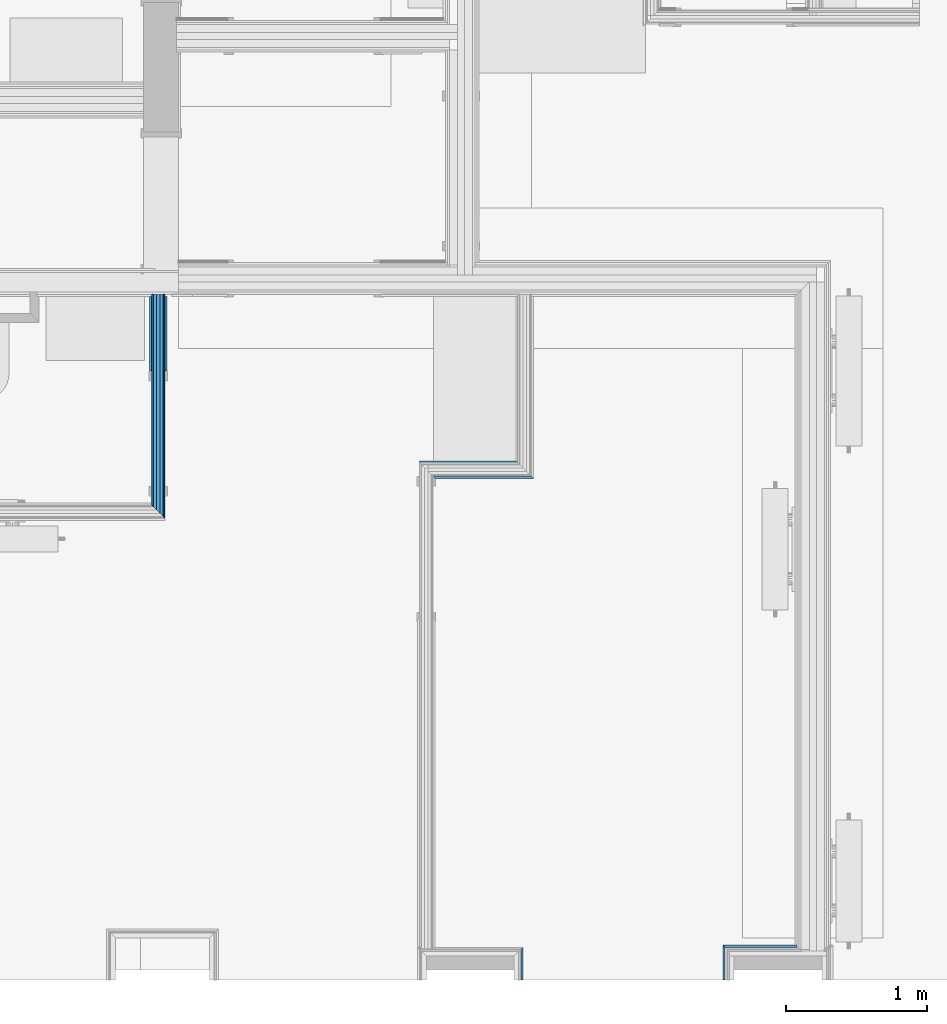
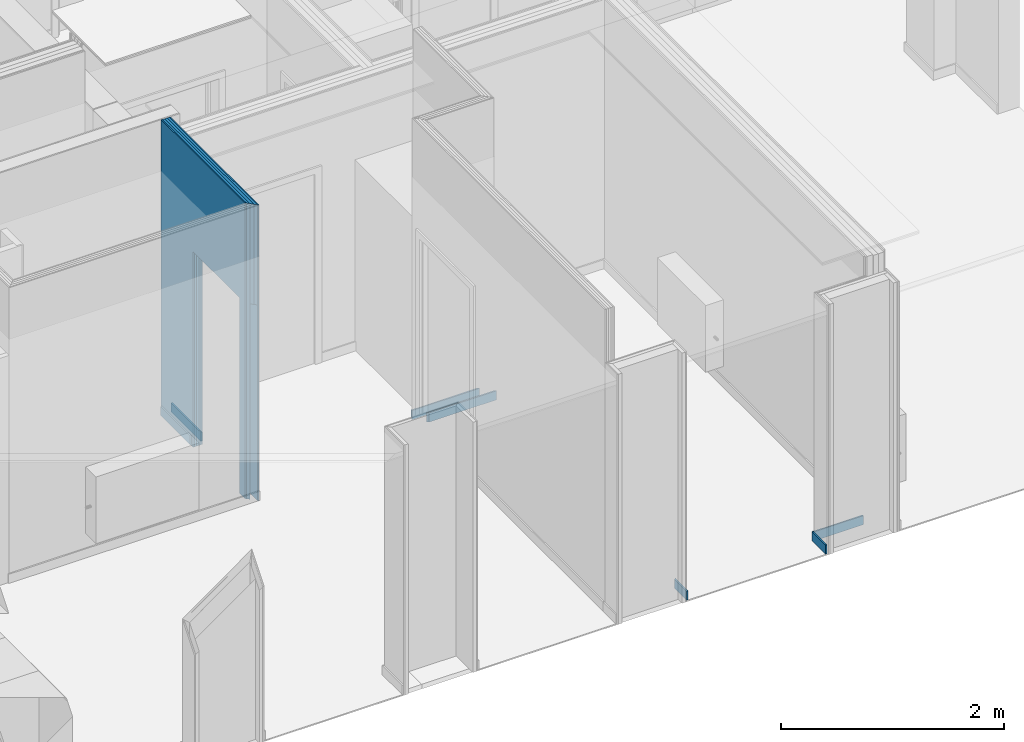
# One storey, part 38 of 65: 12 building element parts, 1 opening, 5 elements without a shape of their own.
"""IFC2X3 building model written with IfcOpenShell, lengths in metres."""

from ifc_helpers import new_model, entity, si_unit, converted_unit, derived_unit, money_unit, direction, frame, frame_2d, origin_with_axes, place, context, subcontext, project, spatial, polyline, rectangle, outline, extrude, material, type_object, element, aggregate, save


model = new_model("IFC2X3")

# Units and contexts
model_context = context("Model", 3, precision=1e-05, world=origin_with_axes(), true_north=direction((0.0, 1.0)))
body_context = subcontext(model_context, "Body", "Model", "MODEL_VIEW", scale=1.0)
ifc_project = project(units=[si_unit("LENGTHUNIT", "METRE"), si_unit("AREAUNIT", "SQUARE_METRE"), si_unit("VOLUMEUNIT", "CUBIC_METRE"), si_unit("ABSORBEDDOSEUNIT", "GRAY"), si_unit("AMOUNTOFSUBSTANCEUNIT", "MOLE"), si_unit("DOSEEQUIVALENTUNIT", "SIEVERT"), si_unit("ELECTRICCAPACITANCEUNIT", "FARAD"), si_unit("ELECTRICCHARGEUNIT", "COULOMB"), si_unit("ELECTRICCONDUCTANCEUNIT", "SIEMENS"), si_unit("ELECTRICCURRENTUNIT", "AMPERE"), si_unit("ELECTRICRESISTANCEUNIT", "OHM"), si_unit("ELECTRICVOLTAGEUNIT", "VOLT"), si_unit("ENERGYUNIT", "JOULE"), si_unit("FORCEUNIT", "NEWTON"), si_unit("FREQUENCYUNIT", "HERTZ"), si_unit("ILLUMINANCEUNIT", "LUX"), si_unit("INDUCTANCEUNIT", "HENRY"), si_unit("LUMINOUSFLUXUNIT", "LUMEN"), si_unit("LUMINOUSINTENSITYUNIT", "CANDELA"), si_unit("MAGNETICFLUXDENSITYUNIT", "TESLA"), si_unit("MAGNETICFLUXUNIT", "WEBER"), si_unit("MASSUNIT", "GRAM"), converted_unit("PLANEANGLEUNIT", "degree", entity("IfcReal", 0.0174532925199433), si_unit("PLANEANGLEUNIT", "RADIAN"), dimensions=[0, 0, 0, 0, 0, 0, 0]), si_unit("POWERUNIT", "WATT"), si_unit("PRESSUREUNIT", "PASCAL"), si_unit("RADIOACTIVITYUNIT", "BECQUEREL"), si_unit("SOLIDANGLEUNIT", "STERADIAN"), si_unit("THERMODYNAMICTEMPERATUREUNIT", "KELVIN"), si_unit("TIMEUNIT", "SECOND"), derived_unit("ACCELERATIONUNIT", [(si_unit("LENGTHUNIT", "METRE"), 1), (si_unit("TIMEUNIT", "SECOND"), -2)]), derived_unit("ANGULARVELOCITYUNIT", [(converted_unit("PLANEANGLEUNIT", "degree", entity("IfcReal", 0.0174532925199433), si_unit("PLANEANGLEUNIT", "RADIAN"), dimensions=[0, 0, 0, 0, 0, 0, 0]), 1), (si_unit("TIMEUNIT", "SECOND"), -1)]), derived_unit("CURVATUREUNIT", [(converted_unit("PLANEANGLEUNIT", "degree", entity("IfcReal", 0.0174532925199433), si_unit("PLANEANGLEUNIT", "RADIAN"), dimensions=[0, 0, 0, 0, 0, 0, 0]), 1), (si_unit("LENGTHUNIT", "METRE"), -1)]), derived_unit("DYNAMICVISCOSITYUNIT", [(si_unit("PRESSUREUNIT", "PASCAL"), 1), (si_unit("TIMEUNIT", "SECOND"), 1)]), derived_unit("HEATFLUXDENSITYUNIT", [(si_unit("POWERUNIT", "WATT"), 1), (si_unit("LENGTHUNIT", "METRE"), -2)]), derived_unit("HEATINGVALUEUNIT", [(si_unit("ENERGYUNIT", "JOULE"), 1), (si_unit("MASSUNIT", "GRAM"), -1)]), derived_unit("INTEGERCOUNTRATEUNIT", [(si_unit("TIMEUNIT", "SECOND"), -1)]), derived_unit("IONCONCENTRATIONUNIT", [(si_unit("MASSUNIT", "GRAM"), 1), (si_unit("VOLUMEUNIT", "CUBIC_METRE"), -1)]), derived_unit("ISOTHERMALMOISTURECAPACITYUNIT", [(si_unit("VOLUMEUNIT", "CUBIC_METRE"), 1), (si_unit("MASSUNIT", "GRAM"), -1)]), derived_unit("KINEMATICVISCOSITYUNIT", [(si_unit("AREAUNIT", "SQUARE_METRE"), 1), (si_unit("TIMEUNIT", "SECOND"), -1)]), derived_unit("LINEARFORCEUNIT", [(si_unit("FORCEUNIT", "NEWTON"), 1), (si_unit("LENGTHUNIT", "METRE"), -1)]), derived_unit("LINEARMOMENTUNIT", [(si_unit("FORCEUNIT", "NEWTON"), 1), (si_unit("LENGTHUNIT", "METRE"), -1)]), derived_unit("LINEARSTIFFNESSUNIT", [(si_unit("FORCEUNIT", "NEWTON"), 1), (si_unit("LENGTHUNIT", "METRE"), -1)]), derived_unit("LINEARVELOCITYUNIT", [(si_unit("LENGTHUNIT", "METRE"), 1), (si_unit("TIMEUNIT", "SECOND"), -1)]), derived_unit("LUMINOUSINTENSITYDISTRIBUTIONUNIT", [(si_unit("LUMINOUSINTENSITYUNIT", "CANDELA"), 1), (si_unit("LUMINOUSFLUXUNIT", "LUMEN"), -1)]), derived_unit("MASSDENSITYUNIT", [(si_unit("MASSUNIT", "GRAM"), 1), (si_unit("VOLUMEUNIT", "CUBIC_METRE"), -1)]), derived_unit("MASSFLOWRATEUNIT", [(si_unit("MASSUNIT", "GRAM"), 1), (si_unit("TIMEUNIT", "SECOND"), -1)]), derived_unit("MASSPERLENGTHUNIT", [(si_unit("MASSUNIT", "GRAM"), 1), (si_unit("LENGTHUNIT", "METRE"), -1)]), derived_unit("MODULUSOFELASTICITYUNIT", [(si_unit("FORCEUNIT", "NEWTON"), 1), (si_unit("AREAUNIT", "SQUARE_METRE"), -1)]), derived_unit("MODULUSOFLINEARSUBGRADEREACTIONUNIT", [(si_unit("FORCEUNIT", "NEWTON"), 1), (si_unit("LENGTHUNIT", "METRE"), -2)]), derived_unit("MODULUSOFROTATIONALSUBGRADEREACTIONUNIT", [(si_unit("FORCEUNIT", "NEWTON"), 1), (si_unit("LENGTHUNIT", "METRE"), 1)]), derived_unit("MODULUSOFSUBGRADEREACTIONUNIT", [(si_unit("FORCEUNIT", "NEWTON"), 1), (si_unit("VOLUMEUNIT", "CUBIC_METRE"), -1)]), derived_unit("MOISTUREDIFFUSIVITYUNIT", [(si_unit("VOLUMEUNIT", "CUBIC_METRE"), 1), (si_unit("TIMEUNIT", "SECOND"), -1)]), derived_unit("MOLECULARWEIGHTUNIT", [(si_unit("MASSUNIT", "GRAM"), 1), (si_unit("AMOUNTOFSUBSTANCEUNIT", "MOLE"), -1)]), derived_unit("PLANARFORCEUNIT", [(si_unit("FORCEUNIT", "NEWTON"), 1), (si_unit("LENGTHUNIT", "METRE"), -2)]), derived_unit("ROTATIONALFREQUENCYUNIT", [(si_unit("TIMEUNIT", "SECOND"), -1)]), derived_unit("ROTATIONALMASSUNIT", [(si_unit("MASSUNIT", "GRAM"), 1), (si_unit("LENGTHUNIT", "METRE"), 2)]), derived_unit("ROTATIONALSTIFFNESSUNIT", [(si_unit("FORCEUNIT", "NEWTON"), 1), (si_unit("LENGTHUNIT", "METRE"), 1), (converted_unit("PLANEANGLEUNIT", "degree", entity("IfcReal", 0.0174532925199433), si_unit("PLANEANGLEUNIT", "RADIAN"), dimensions=[0, 0, 0, 0, 0, 0, 0]), -1)]), derived_unit("SECTIONAREAINTEGRALUNIT", [(si_unit("LENGTHUNIT", "METRE"), 5)]), derived_unit("SECTIONMODULUSUNIT", [(si_unit("LENGTHUNIT", "METRE"), 3)]), derived_unit("SHEARMODULUSUNIT", [(si_unit("FORCEUNIT", "NEWTON"), 1), (si_unit("AREAUNIT", "SQUARE_METRE"), -1)]), derived_unit("SOUNDPOWERUNIT", [(si_unit("ENERGYUNIT", "JOULE"), 1), (si_unit("TIMEUNIT", "SECOND"), -1)]), derived_unit("SPECIFICHEATCAPACITYUNIT", [(si_unit("FORCEUNIT", "NEWTON"), 1), (si_unit("MASSUNIT", "GRAM"), -1), (si_unit("THERMODYNAMICTEMPERATUREUNIT", "KELVIN"), -1)]), derived_unit("TEMPERATUREGRADIENTUNIT", [(si_unit("THERMODYNAMICTEMPERATUREUNIT", "KELVIN"), 1), (si_unit("LENGTHUNIT", "METRE"), -1)]), derived_unit("THERMALADMITTANCEUNIT", [(si_unit("POWERUNIT", "WATT"), 1), (si_unit("AREAUNIT", "SQUARE_METRE"), -1), (si_unit("THERMODYNAMICTEMPERATUREUNIT", "KELVIN"), -1)]), derived_unit("THERMALCONDUCTANCEUNIT", [(si_unit("POWERUNIT", "WATT"), 1), (si_unit("LENGTHUNIT", "METRE"), -1), (si_unit("THERMODYNAMICTEMPERATUREUNIT", "KELVIN"), -1)]), derived_unit("THERMALEXPANSIONCOEFFICIENTUNIT", [(si_unit("THERMODYNAMICTEMPERATUREUNIT", "KELVIN"), -1)]), derived_unit("THERMALRESISTANCEUNIT", [(si_unit("AREAUNIT", "SQUARE_METRE"), 1), (si_unit("POWERUNIT", "WATT"), -1)]), derived_unit("THERMALTRANSMITTANCEUNIT", [(si_unit("POWERUNIT", "WATT"), 1), (si_unit("AREAUNIT", "SQUARE_METRE"), -1), (si_unit("THERMODYNAMICTEMPERATUREUNIT", "KELVIN"), -1)]), derived_unit("TORQUEUNIT", [(si_unit("FORCEUNIT", "NEWTON"), 1), (si_unit("LENGTHUNIT", "METRE"), 1)]), derived_unit("VAPORPERMEABILITYUNIT", [(si_unit("MASSUNIT", "GRAM"), 1), (si_unit("TIMEUNIT", "SECOND"), -1)]), derived_unit("VOLUMETRICFLOWRATEUNIT", [(si_unit("VOLUMEUNIT", "CUBIC_METRE"), 1), (si_unit("TIMEUNIT", "SECOND"), -1)]), derived_unit("WARPINGCONSTANTUNIT", [(si_unit("LENGTHUNIT", "METRE"), 6)]), derived_unit("WARPINGMOMENTUNIT", [(si_unit("FORCEUNIT", "NEWTON"), 1), (si_unit("LENGTHUNIT", "METRE"), 2)]), money_unit("GBP")], contexts=[model_context])

# Site, building, storey
site_placement = place(None, origin_with_axes())
site = spatial("IfcSite", under=ifc_project, at=site_placement, Name="Site", CompositionType="ELEMENT")
building_placement = place(site_placement, origin_with_axes())
building = spatial("IfcBuilding", under=site, at=building_placement, Name="Building01", CompositionType="ELEMENT")
storey_placement = place(building_placement, frame((0.0, 0.0, 8.64), z_axis=(0.0, 0.0, 1.0), x_axis=(1.0, 0.0, 0.0)))
storey = spatial("IfcBuildingStorey", under=building, at=storey_placement, Name="2F", CompositionType="ELEMENT", Elevation=8.64)

# Wall, building element part
wall_type_1 = type_object("IfcWallType", Name="SHE_A-Walls_Type06d_ExternalWallInsulation_48mm", PredefinedType="NOTDEFINED")
wall_1_placement = place(storey_placement, frame((20.387, 0.27, 0.0), z_axis=(0.0, 0.0, 1.0), x_axis=(0.0, -1.0, 0.0)))
wall_1 = element("IfcWall", 1, at=wall_1_placement, inside=storey, type_object=wall_type_1, Name="6D", ObjectType="SHE_A-Walls_Type06d_ExternalWallInsulation_48mm")
ifc_material_1 = material(Name="A_BSUK_Walls_Timber")
building_element_part_1_placement = place(wall_1_placement, origin_with_axes())
building_element_part_1 = element("IfcBuildingElementPart", 2, at=building_element_part_1_placement, material=ifc_material_1, Name="3", context=body_context, shape_type="SweptSolid", body=[
    extrude(outline(polyline([(-0.063, 0.063), (-0.048, 0.048), (0.17, 0.048), (0.17, 0.063), (-0.063, 0.063)])), frame((0.0, 0.0, 0.015), z_axis=(0.0, 0.0, 1.0), x_axis=(1.0, 0.0, 0.0)), (0.0, 0.0, 1.0), 0.1),
])
aggregate(wall_1, [building_element_part_1])

# Wall, building element parts
wall_type_2 = type_object("IfcWallType", Name="SHE_A-Walls_Type05a_Partition_95mm_tall", PredefinedType="NOTDEFINED")
wall_2_placement = place(storey_placement, frame((19.775, 3.72, 0.0), z_axis=(0.0, 0.0, 1.0), x_axis=(1.0, 0.0, 0.0)))
wall_2 = element("IfcWall", 3, at=wall_2_placement, inside=storey, type_object=wall_type_2, Name="5A", ObjectType="SHE_A-Walls_Type05a_Partition_95mm_tall")
placement_1 = place(wall_2_placement, origin_with_axes())
building_element_part_2 = element("IfcBuildingElementPart", 4, at=placement_1, material=ifc_material_1, Name="1", context=body_context, shape_type="SweptSolid", body=[
    extrude(outline(polyline([(0.735, -0.035), (0.035, -0.035), (0.05, -0.05), (0.75, -0.05), (0.735, -0.035)])), frame((0.0, 0.0, 0.015), z_axis=(0.0, 0.0, 1.0), x_axis=(1.0, 0.0, 0.0)), (0.0, 0.0, 1.0), 0.1),
])
building_element_part_3 = element("IfcBuildingElementPart", 5, at=placement_1, material=ifc_material_1, Name="7", context=body_context, shape_type="SweptSolid", body=[
    extrude(outline(polyline([(0.625, 0.075), (-0.06, 0.075), (-0.06, 0.06), (0.64, 0.06), (0.625, 0.075)])), frame((0.0, 0.0, 0.015), z_axis=(0.0, 0.0, 1.0), x_axis=(1.0, 0.0, 0.0)), (0.0, 0.0, 1.0), 0.1),
])
aggregate(wall_2, [building_element_part_2, building_element_part_3])

# Wall, opening, building element parts
wall_3_placement = place(storey_placement, frame((17.8675, 4.98, 0.0), z_axis=(0.0, 0.0, 1.0), x_axis=(0.0, -1.0, 0.0)))
wall_3 = element("IfcWall", 6, at=wall_3_placement, inside=storey, type_object=wall_type_2, Name="5A", ObjectType="SHE_A-Walls_Type05a_Partition_95mm_tall")
opening_placement = place(wall_3_placement, frame((0.574219, -0.06, -0.015), z_axis=(0.0, 0.0, 1.0), x_axis=(1.0, 0.0, 0.0)))
element("IfcOpeningElement", 7, at=opening_placement, cuts=wall_3, Name="Opening", ObjectType="Recess", context=body_context, shape_type="SweptSolid", body=[
    extrude(rectangle(XDim=0.834, YDim=2.157, at=frame_2d((-0.417, 1.0785), x_axis=(-1.0, 0.0))), frame((0.0, 0.0, 0.0), z_axis=(0.0, 1.0, 0.0), x_axis=(-1.0, 0.0, 0.0)), (0.0, 0.0, 1.0), 0.095),
    extrude(outline(polyline([(0.0, 2.157), (-1.034, 2.157), (-1.034, 0.015), (-0.834, 0.015), (-0.834, 0.0), (0.0, 0.0), (0.0, 2.157)])), frame((0.0, 0.035, 0.0), z_axis=(0.0, 1.0, 0.0), x_axis=(-1.0, 0.0, 0.0)), (0.0, 0.0, 1.0), 0.025),
    extrude(outline(polyline([(0.0, 2.157), (-1.034, 2.157), (-1.034, 0.015), (-0.834, 0.015), (-0.834, 0.0), (0.0, 0.0), (0.0, 2.157)])), frame((0.0, 0.06, 0.0), z_axis=(0.0, 1.0, 0.0), x_axis=(-1.0, 0.0, 0.0)), (0.0, 0.0, 1.0), 0.023),
])
placement_2 = place(wall_3_placement, origin_with_axes())
building_element_part_4 = element("IfcBuildingElementPart", 8, at=placement_2, material=ifc_material_1, Name="1", context=body_context, shape_type="SweptSolid", body=[
    extrude(rectangle(XDim=0.015, YDim=0.532219, at=frame_2d((0.28111, -0.0675), x_axis=(0.0, -1.0))), frame((0.0, 0.0, 0.015), z_axis=(0.0, 0.0, 1.0), x_axis=(1.0, 0.0, 0.0)), (0.0, 0.0, 1.0), 0.1),
])
ifc_material_2 = material(Name="A_BSUK_WallInternal_Finishes_Plasterboard")
building_element_part_5 = element("IfcBuildingElementPart", 9, at=placement_2, material=ifc_material_2, Name="2", context=body_context, shape_type="SweptSolid", body=[
    extrude(outline(polyline([(1.512, -0.048), (0.0, -0.048), (0.0, -0.06), (1.5, -0.06), (1.512, -0.048)])), origin_with_axes(), (0.0, 0.0, 1.0), 3.24),
])
ifc_material_3 = material(Name="Air Cavity")
building_element_part_6 = element("IfcBuildingElementPart", 10, at=placement_2, material=ifc_material_3, Name="3", context=body_context, shape_type="SweptSolid", body=[
    extrude(outline(polyline([(1.535, -0.025), (0.0, -0.025), (0.0, -0.048), (1.512, -0.048), (1.535, -0.025)])), origin_with_axes(), (0.0, 0.0, 1.0), 3.24),
])
ifc_material_4 = material(Name="A_BSUK_Insulation")
building_element_part_7 = element("IfcBuildingElementPart", 11, at=placement_2, material=ifc_material_4, Name="4", context=body_context, shape_type="SweptSolid", body=[
    extrude(outline(polyline([(1.56, 0.0), (0.0, 0.0), (0.0, -0.025), (1.535, -0.025), (1.56, 0.0)])), origin_with_axes(), (0.0, 0.0, 1.0), 3.24),
])
building_element_part_8 = element("IfcBuildingElementPart", 12, at=placement_2, material=ifc_material_3, Name="5", context=body_context, shape_type="SweptSolid", body=[
    extrude(outline(polyline([(1.583, 0.023), (0.0, 0.023), (0.0, 0.0), (1.56, 0.0), (1.583, 0.023)])), origin_with_axes(), (0.0, 0.0, 1.0), 3.24),
])
building_element_part_9 = element("IfcBuildingElementPart", 13, at=placement_2, material=ifc_material_2, Name="6", context=body_context, shape_type="SweptSolid", body=[
    extrude(outline(polyline([(1.595, 0.035), (0.0, 0.035), (0.0, 0.023), (1.583, 0.023), (1.595, 0.035)])), origin_with_axes(), (0.0, 0.0, 1.0), 3.24),
])
building_element_part_10 = element("IfcBuildingElementPart", 14, at=placement_2, material=ifc_material_1, Name="7", context=body_context, shape_type="SweptSolid", body=[
    extrude(rectangle(XDim=0.015, YDim=0.532219, at=frame_2d((0.28111, 0.0425), x_axis=(0.0, -1.0))), frame((0.0, 0.0, 0.015), z_axis=(0.0, 0.0, 1.0), x_axis=(1.0, 0.0, 0.0)), (0.0, 0.0, 1.0), 0.1),
])
aggregate(wall_3, [building_element_part_4, building_element_part_5, building_element_part_6, building_element_part_7, building_element_part_8, building_element_part_9, building_element_part_10])

# Wall, building element part
wall_type_3 = type_object("IfcWallType", Name="SHE_A-Walls_Type06f_ExternalWallInsulation_48+15mm", PredefinedType="NOTDEFINED")
wall_4_placement = place(storey_placement, frame((21.953, 0.27, 0.0), z_axis=(0.0, 0.0, 1.0), x_axis=(0.0, 1.0, 0.0)))
wall_4 = element("IfcWall", 15, at=wall_4_placement, inside=storey, type_object=wall_type_3, Name="6F", ObjectType="SHE_A-Walls_Type06f_ExternalWallInsulation_48+15mm")
building_element_part_11_placement = place(wall_4_placement, origin_with_axes())
building_element_part_11 = element("IfcBuildingElementPart", 16, at=building_element_part_11_placement, material=ifc_material_1, Name="4", context=body_context, shape_type="SweptSolid", body=[
    extrude(outline(polyline([(-0.17, 0.063), (0.063, 0.063), (0.078, 0.078), (-0.17, 0.078), (-0.17, 0.063)])), frame((0.0, 0.0, 0.015), z_axis=(0.0, 0.0, 1.0), x_axis=(1.0, 0.0, 0.0)), (0.0, 0.0, 1.0), 0.1),
])
aggregate(wall_4, [building_element_part_11])

wall_5_placement = place(storey_placement, frame((22.613124, 0.27, 0.0), z_axis=(0.0, 0.0, 1.0), x_axis=(1.0, 0.0, 0.0)))
wall_5 = element("IfcWall", 17, at=wall_5_placement, inside=storey, type_object=wall_type_3, Name="6F", ObjectType="SHE_A-Walls_Type06f_ExternalWallInsulation_48+15mm")
building_element_part_12_placement = place(wall_5_placement, origin_with_axes())
building_element_part_12 = element("IfcBuildingElementPart", 18, at=building_element_part_12_placement, material=ifc_material_1, Name="7", context=body_context, shape_type="SweptSolid", body=[
    extrude(outline(polyline([(-0.723124, 0.063), (-0.213124, 0.063), (-0.213124, 0.078), (-0.738124, 0.078), (-0.723124, 0.063)])), frame((0.0, 0.0, 0.015), z_axis=(0.0, 0.0, 1.0), x_axis=(1.0, 0.0, 0.0)), (0.0, 0.0, 1.0), 0.1),
])
aggregate(wall_5, [building_element_part_12])

save(model, "model.ifc")
